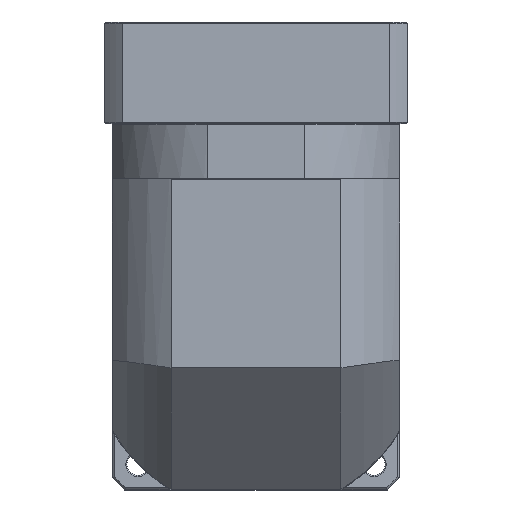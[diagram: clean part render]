
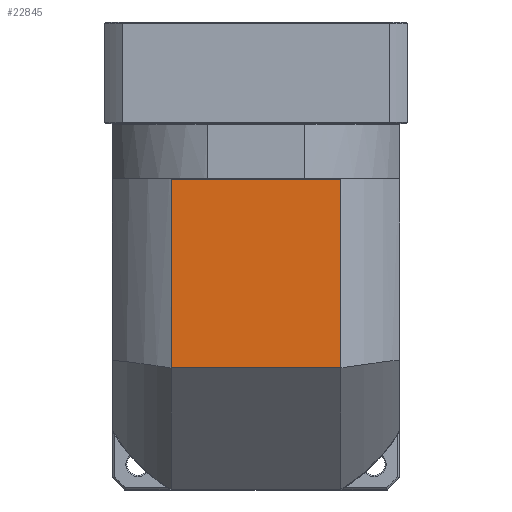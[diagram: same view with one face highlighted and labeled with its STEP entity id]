
A CAD part, top view. The second image highlights one B-rep face of the part: STEP entity #22845.
In plain terms, the highlighted planar face has unit normal (0, 0, 1).
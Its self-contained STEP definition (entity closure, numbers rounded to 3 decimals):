
#99 = ORIENTED_EDGE ( 'NONE', *, *, #118407, .F. ) ;
#4370 = DIRECTION ( 'NONE',  ( 0., 0., -1. ) ) ;
#16605 = CARTESIAN_POINT ( 'NONE',  ( -68.758, 161.235, 94.364 ) ) ;
#16974 = VERTEX_POINT ( 'NONE', #42464 ) ;
#22845 = ADVANCED_FACE ( 'NONE', ( #28648 ), #94929, .F. ) ;
#23828 = VECTOR ( 'NONE', #53586, 1000. ) ;
#24997 = DIRECTION ( 'NONE',  ( 0., 1., 0. ) ) ;
#28648 = FACE_OUTER_BOUND ( 'NONE', #127068, .T. ) ;
#30535 = VERTEX_POINT ( 'NONE', #16605 ) ;
#33864 = VECTOR ( 'NONE', #24997, 1000. ) ;
#34999 = ORIENTED_EDGE ( 'NONE', *, *, #37157, .F. ) ;
#36915 = DIRECTION ( 'NONE',  ( 0., -1., 0. ) ) ;
#37157 = EDGE_CURVE ( 'NONE', #30535, #16974, #53406, .T. ) ;
#42464 = CARTESIAN_POINT ( 'NONE',  ( -68.758, 68.235, 94.364 ) ) ;
#42652 = CARTESIAN_POINT ( 'NONE',  ( -152.788, 68.235, 94.364 ) ) ;
#45217 = CARTESIAN_POINT ( 'NONE',  ( -152.788, -184.869, 94.364 ) ) ;
#51106 = EDGE_CURVE ( 'NONE', #128312, #30535, #79602, .T. ) ;
#52179 = CARTESIAN_POINT ( 'NONE',  ( -181.773, 68.235, 94.364 ) ) ;
#52777 = ORIENTED_EDGE ( 'NONE', *, *, #102168, .F. ) ;
#53406 = LINE ( 'NONE', #67951, #114133 ) ;
#53586 = DIRECTION ( 'NONE',  ( -1., 0., 0. ) ) ;
#60062 = AXIS2_PLACEMENT_3D ( 'NONE', #87787, #4370, #116412 ) ;
#61492 = VERTEX_POINT ( 'NONE', #42652 ) ;
#64197 = LINE ( 'NONE', #52179, #23828 ) ;
#65839 = LINE ( 'NONE', #45217, #33864 ) ;
#67951 = CARTESIAN_POINT ( 'NONE',  ( -68.758, -184.869, 94.364 ) ) ;
#68729 = CARTESIAN_POINT ( 'NONE',  ( -152.788, 161.235, 94.364 ) ) ;
#79602 = LINE ( 'NONE', #136496, #87975 ) ;
#87787 = CARTESIAN_POINT ( 'NONE',  ( -181.773, 161.735, 94.364 ) ) ;
#87975 = VECTOR ( 'NONE', #125210, 1000. ) ;
#94929 = PLANE ( 'NONE',  #60062 ) ;
#102168 = EDGE_CURVE ( 'NONE', #16974, #61492, #64197, .T. ) ;
#114133 = VECTOR ( 'NONE', #36915, 1000. ) ;
#116412 = DIRECTION ( 'NONE',  ( 1., 0., 0. ) ) ;
#118407 = EDGE_CURVE ( 'NONE', #61492, #128312, #65839, .T. ) ;
#121530 = ORIENTED_EDGE ( 'NONE', *, *, #51106, .F. ) ;
#125210 = DIRECTION ( 'NONE',  ( 1., 0., 0. ) ) ;
#127068 = EDGE_LOOP ( 'NONE', ( #52777, #34999, #121530, #99 ) ) ;
#128312 = VERTEX_POINT ( 'NONE', #68729 ) ;
#136496 = CARTESIAN_POINT ( 'NONE',  ( -181.773, 161.235, 94.364 ) ) ;
